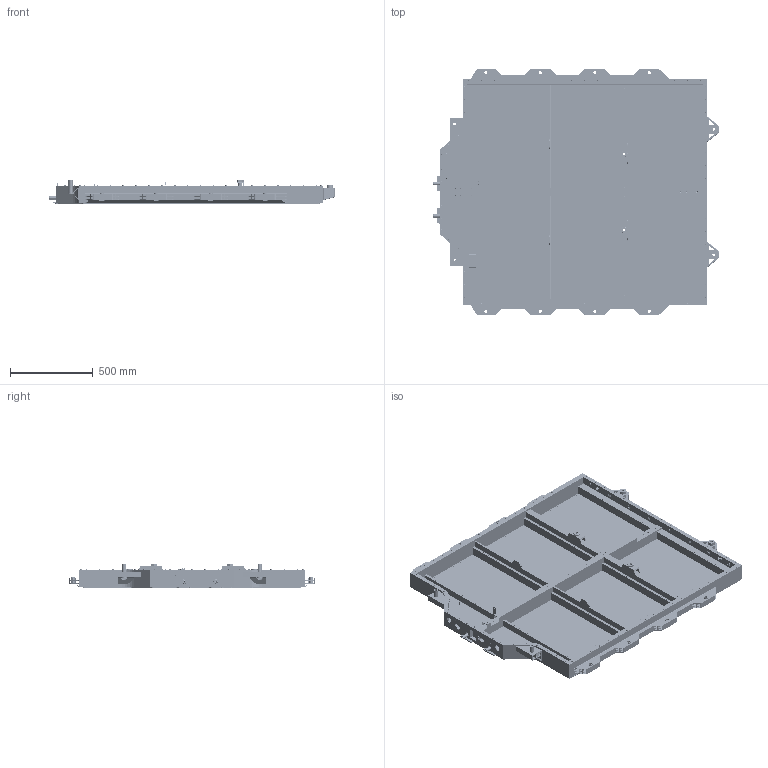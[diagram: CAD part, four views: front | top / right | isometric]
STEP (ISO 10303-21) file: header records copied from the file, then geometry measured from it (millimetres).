
FILE_DESCRIPTION (( 'STEP AP214' ), '1' );
FILE_NAME ('下箱体总成-0922.STEP', '2021-09-22T05:46:12', ( '' ), ( '' ), 'SwSTEP 2.0', 'SolidWorks 2017', '' );
FILE_SCHEMA (( 'AUTOMOTIVE_DESIGN' ));
Length unit declared in the file: millimetre
Products named in the file (50): 嘐隅盓殤-衵ヶ裂嫉; 一汽M8螺纹水嘴(1).STEP; 菁誘啣; 褽-酘晚褽; 底护板密封圈; 褽-軝褽; 眊极遺殤; M4蹟恇埴翐种; 粣杶2; M8籵謂嶺穩蹟譫; ヶ踐-衵; kemin換覜ん(2); 褽-衵ヶ晚褽; 输入203; plain washers--product grade c gb_GB_FASTENER_WASHER_SMWC 4; 爾耋-蝌啗藻笠爾3; 珘濮啣狟脯; 嘐隅盓殤-酘ヶ裂嫉; 爾耋-蝌啗藻笠爾1; 菁窒滅誘蹬; 褽-綴晚褽; _X2_6A2A6881_X0_-3; 褽-衵晚褽; 粣杶3; 爾耋-蝌啗藻笠爾2; 綴裂嫉; 输入102; 珘濮啣奻脯; 褽2; 囀И詩佪蹟杶M6; 输入20; 紧固件-盲孔防水拉铆螺母（M5×18）; 输入111; 输入168; 褽-ヶ晚褽; BE11__X2_7BB14F53_X0_-2019; 盓殤-1; 9240G01-XB34.1.2^kemin換覜ん(2); 褽-筵褽-1; 盄縐1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
Assembly tree (301 placements, depth 5):
  狟眊极軞傖-0922
    眊极遺殤
      褽-衵ヶ晚褽
      紧固件-盲孔防水拉铆螺母（M5×18）  x73
      囀И詩佪蹟杶M5  x84
      綴裂嫉
      褽-ヶ晚褽
      输入168
      输入102
      褽-酘晚褽
      褽-綴晚褽
      输入149
      褽-衵晚褽
      输入203
      嘐隅盓殤-酘ヶ裂嫉
      褽-酘ヶ晚褽
      嘐隅盓殤-衵ヶ裂嫉
      输入111
      褽-軝褽
      输入20
      囀И詩佪蹟杶M6  x60
      褽2
      褽-筵褽-1
      ヶ踐
      ヶ踐-衵
    珘濮啣
      珘濮啣狟脯
      珘濮啣奻脯
      一汽M8螺纹水嘴(1).STEP  x2
        kemin換覜ん(2)
          9240G01-XB34.1.2^kemin換覜ん(2)
    盄縐1  x8
    盄縐2  x7
    囀И詩佪蹟杶M5
    盓殤-1
    plain washers--product grade c gb_GB_FASTENER_WASHER_SMWC 4
    盓殤
    爾耋-蝌啗藻笠爾1
    爾耋-蝌啗藻笠爾2
    爾耋-蝌啗藻笠爾3
    M8籵謂嶺穩蹟譫  x5
      BE11__X2_7BB14F53_X0_-2019
        _X2_6A2A6881_X0_-3
    M4蹟恇埴翐种  x12
    菁窒滅誘蹬
    底护板密封圈
    菁誘啣
    9230015-XB01  x2
    粣杶1  x8
    粣杶2
    粣杶3
Bounding box: 1731 x 1486 x 143.7 mm (x, y, z)
Volume: 27732896.3 mm3; surface area: 22459070.5 mm2
Topology: 319 solids, 327 shells, 27067 faces, 68882 edges, 42308 vertices
Faces by surface type: cylinder 10232, bspline 10178, plane 5302, cone 1307, torus 48
Entity records: 451265 total; most frequent: CARTESIAN_POINT 253949, ORIENTED_EDGE 43582, DIRECTION 31679, EDGE_CURVE 21791, VERTEX_POINT 13806, AXIS2_PLACEMENT_3D 10914, VECTOR 9851, LINE 9851
